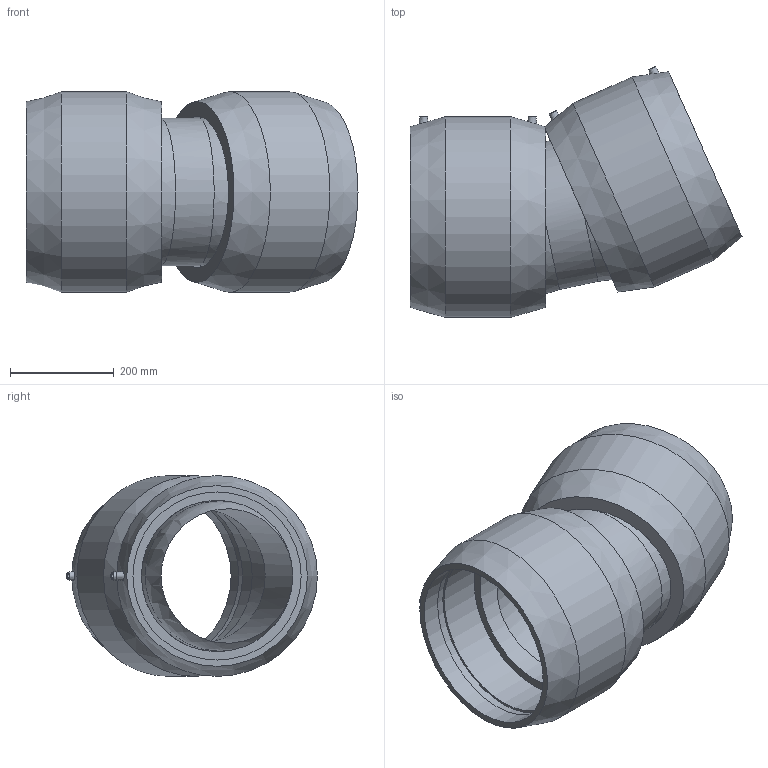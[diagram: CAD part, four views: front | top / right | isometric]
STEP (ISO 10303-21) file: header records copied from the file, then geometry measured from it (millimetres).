
FILE_DESCRIPTION(/* description */ ('PLASSON ADJUSTABLE ELBOW ASTM 12'''''),/* implementation_level */ '2;1');
FILE_NAME(/* name */ 'C:\Dropbox\KIMPROJECTS-Inventor 2019\99-16-3568-Processing Inch\ASTM ElectroFusion 2021\5947B\5947B003120.ipt.stp',/* time_stamp */ '2021-08-30T09:53:07+03:00',/* author */ ('KIM'),/* organization */ (''),/* preprocessor_version */ 'ST-DEVELOPER v17.2',/* originating_system */ 'Autodesk Inventor 2019',/* authorisation */ '');
FILE_SCHEMA (('AUTOMOTIVE_DESIGN { 1 0 10303 214 3 1 1 }'));
Length unit declared in the file: inch
Products named in the file (1): 5947B003120
Bounding box: 638.52 x 482.52 x 386.08 mm (x, y, z)
Volume: 21396986.2 mm3; surface area: 1615150.6 mm2
Topology: 1 solids, 1 shells, 50 faces, 126 edges, 88 vertices
Faces by surface type: plane 20, cylinder 18, cone 10, sphere 2
Full cylindrical faces by diameter (mm): 4 x4, 10 x4, 258.665 x1, 283.709 x1, 291.06 x2, 323.4 x4, 386.08 x2
Entity records: 1947 total; most frequent: CARTESIAN_POINT 629, DIRECTION 291, ORIENTED_EDGE 244, AXIS2_PLACEMENT_3D 131, EDGE_CURVE 122, VERTEX_POINT 88, CIRCLE 80, EDGE_LOOP 72
